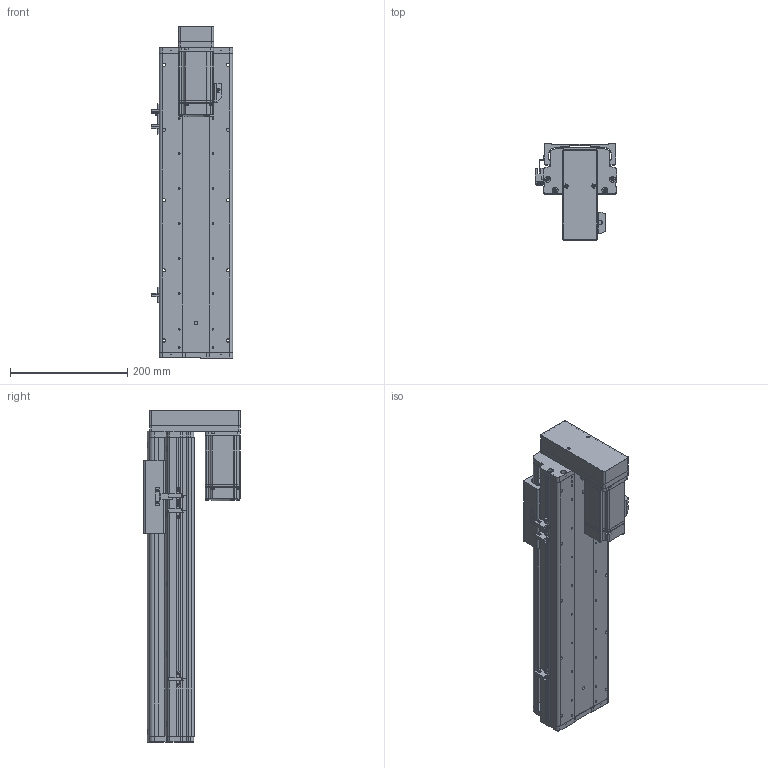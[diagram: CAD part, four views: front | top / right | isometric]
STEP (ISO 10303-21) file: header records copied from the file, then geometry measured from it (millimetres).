
FILE_DESCRIPTION (( 'STEP AP214' ), '1' );
FILE_NAME ('KSD125S-S300-MD-CM.STEP', '2017-10-21T07:59:00', ( '微软用户' ), ( '微软中国' ), 'SwSTEP 2.0', 'SolidWorks 2014', '' );
FILE_SCHEMA (( 'AUTOMOTIVE_DESIGN' ));
Length unit declared in the file: millimetre
Products named in the file (17): KSD125S-300俴最佪裝菁啣; MHMD042G1CA_2_03; 拸萇儂釱滅袉菜; 拸萇儂釱滅袉菜-1; 覜茼え68遵圉猾敕; U倰嫖萇假蚾璃; U倰嫖萇EEㄜSX672; ヶ傷啣-125遵耀郪; KSD125-賑雄釱1; 125-帣傷啣1; KSD125S-S300-MD-CM; 125宽马达安装板连板上下折丝杆同步带; 125遵悵誘欶奻狟殏; 肣翐M4X25樓6; HTPA30S3M150_A_H6_a佪裝蚚; HTPA30S3M150_A_H6_a萇儂蚚; KSD125S-300俴最佪裝滅鳥裔
Assembly tree (21 placements, depth 2):
  KSD125S-S300-MD-CM
    125-帣傷啣1
    KSD125-賑雄釱1
    ヶ傷啣-125遵耀郪
    U倰嫖萇EEㄜSX672  x3
    U倰嫖萇假蚾璃  x3
    覜茼え68遵圉猾敕
    拸萇儂釱滅袉菜-1
    拸萇儂釱滅袉菜
    MHMD042G1CA_2_03
    KSD125S-300俴最佪裝菁啣
    KSD125S-300俴最佪裝滅鳥裔
    HTPA30S3M150_A_H6_a萇儂蚚
    HTPA30S3M150_A_H6_a佪裝蚚
    肣翐M4X25樓6  x2
    125遵悵誘欶奻狟殏
    125宽马达安装板连板上下折丝杆同步带
Bounding box: 138.7 x 165 x 567.5 mm (x, y, z)
Volume: 2083234.1 mm3; surface area: 737154.1 mm2
Topology: 20 solids, 23 shells, 2191 faces, 6329 edges, 4171 vertices
Faces by surface type: cylinder 1350, plane 696, cone 123, bspline 22
Entity records: 77663 total; most frequent: CARTESIAN_POINT 15545, DIRECTION 11933, ORIENTED_EDGE 11094, EDGE_CURVE 5625, AXIS2_PLACEMENT_3D 4600, VERTEX_POINT 3742, LINE 2733, VECTOR 2733
